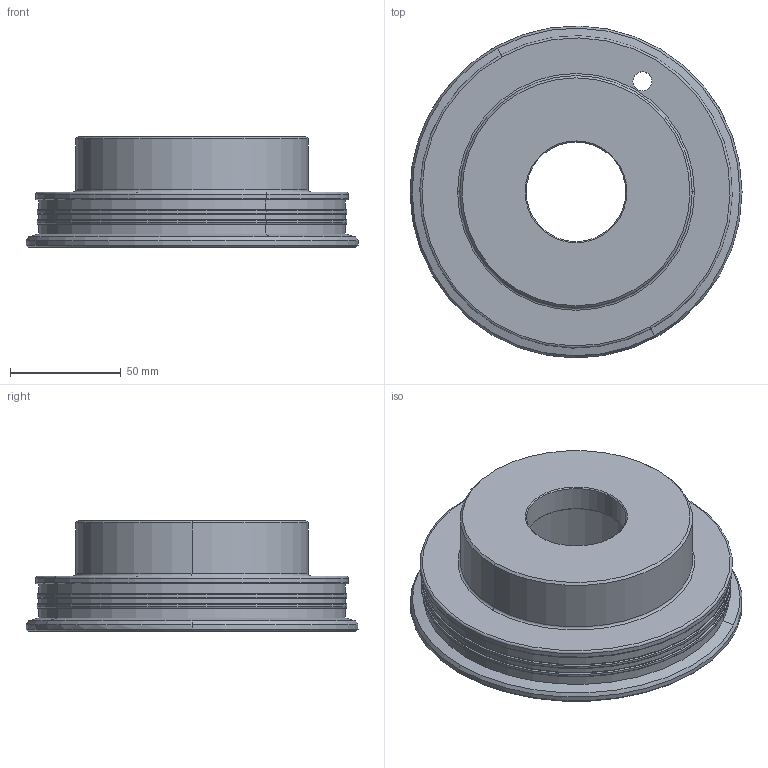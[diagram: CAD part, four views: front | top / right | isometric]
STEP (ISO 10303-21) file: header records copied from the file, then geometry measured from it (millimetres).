
FILE_DESCRIPTION(('CATIA V5 STEP Exchange'),'2;1');
FILE_NAME('E:\智能空气悬架 改制\20210630孙国\方案二\加工件\外购\hou shang gai ZUO .stp','2021-08-03T07:52:30+00:00',('none'),('none'),'CATIA Version 5 Release 20 GA (IN-10)','CATIA V5 STEP AP203','none');
FILE_SCHEMA(('CONFIG_CONTROL_DESIGN'));
Length unit declared in the file: millimetre
Products named in the file (1): qi nang shang gai 
Bounding box: 150 x 150 x 50 mm (x, y, z)
Volume: 340216.7 mm3; surface area: 67783.2 mm2
Topology: 1 solids, 1 shells, 113 faces, 237 edges, 141 vertices
Faces by surface type: cylinder 42, torus 36, plane 19, cone 16
Entity records: 2841 total; most frequent: CARTESIAN_POINT 504, ORIENTED_EDGE 474, DIRECTION 411, AXIS2_PLACEMENT_3D 265, EDGE_CURVE 237, CIRCLE 175, VERTEX_POINT 141, EDGE_LOOP 132
